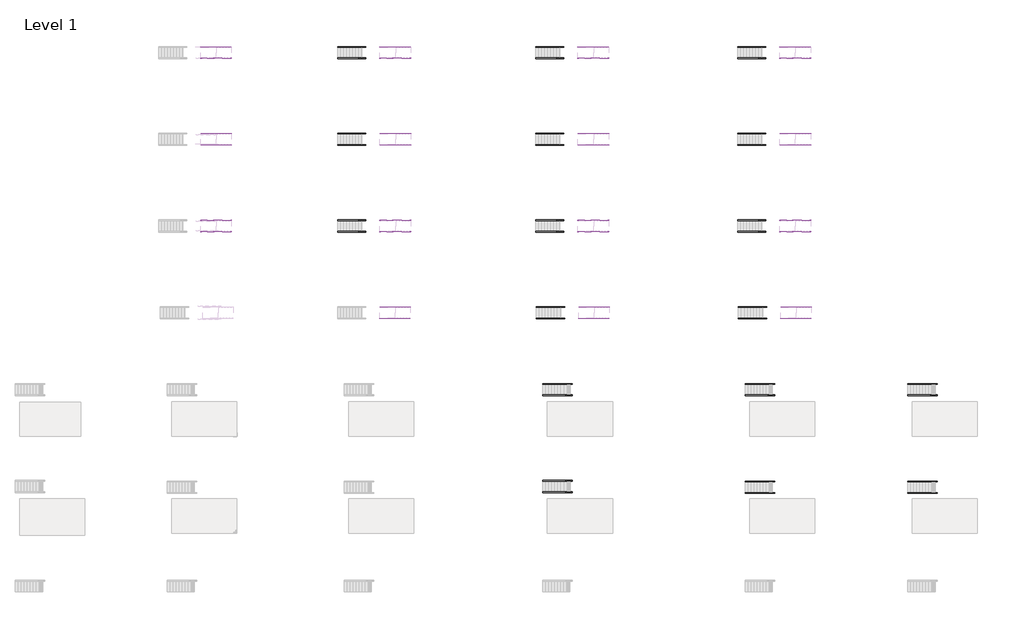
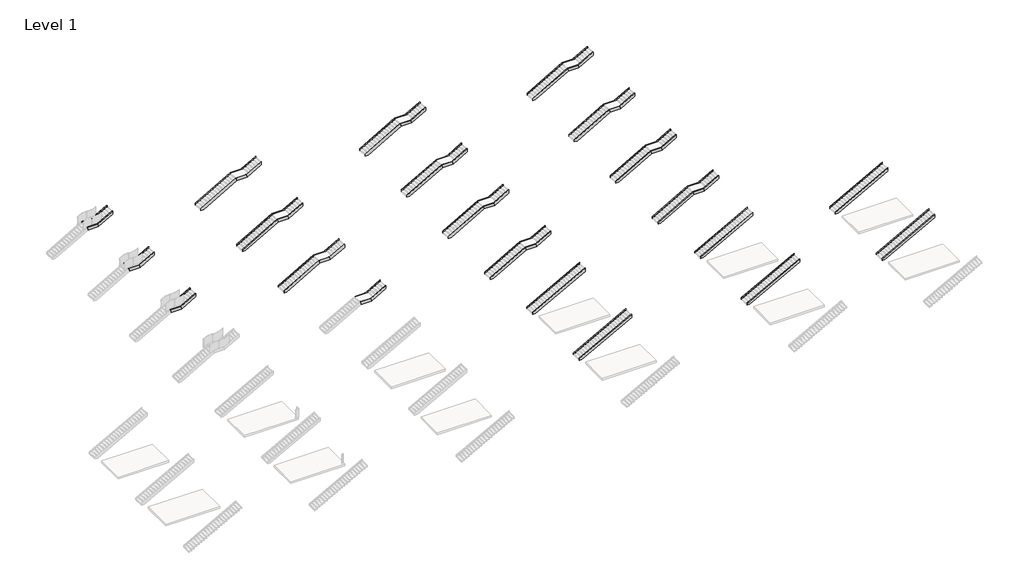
# One storey, part 8 of 8: 94 members.
"""IFC4 building model written with IfcOpenShell, lengths in millimetres."""

from ifc_helpers import new_model, si_unit, frame, origin, place, context, project, spatial, polyline, outline, extrude, element, save

model = new_model("IFC4")

# Units and contexts
model_context = context("Model", 3, world=origin())
ifc_project = project(units=[si_unit("LENGTHUNIT", "METRE", prefix="MILLI")], contexts=[model_context])

# Site, building, storey
site = spatial("IfcSite", under=ifc_project)
building = spatial("IfcBuilding", under=site)
storey = spatial("IfcBuildingStorey", under=building, Name="Level 1", Elevation=0.0)

# Members
placement = place(None, origin())
element("IfcMember", 1, ObjectType="Stringer - 2\" Width", at=placement, inside=storey, context=model_context, shape_type="SweptSolid", body=[
    extrude(outline(polyline([(2208.8928571, 2160.6034925), (1916.7928571, 2238.1748646), (2746.037898, 3689.3536861), (3048.0, 3689.3536861), (3048.0, 3629.0409925), (2208.8928571, 2160.6034925)])), frame((0.0, 44245.3361774, 0.0), z_axis=(0.0, 1.0, 0.0), x_axis=(0.0, 0.0, 1.0)), (0.0, 0.0, 1.0), 50.8),
])
element("IfcMember", 2, ObjectType="Stringer - 2\" Width", at=placement, inside=storey, context=model_context, shape_type="SweptSolid", body=[
    extrude(outline(polyline([(2208.8928571, 2160.6034925), (1916.7928571, 2238.1748646), (2746.037898, 3689.3536861), (3048.0, 3689.3536861), (3048.0, 3629.0409925), (2208.8928571, 2160.6034925)])), frame((0.0, 43280.1361774, 0.0), z_axis=(0.0, 1.0, 0.0), x_axis=(0.0, 0.0, 1.0)), (0.0, 0.0, 1.0), 50.8),
])
element("IfcMember", 3, ObjectType="Stringer - 2\" Width", at=placement, inside=storey, context=model_context, shape_type="SweptSolid", body=[
    extrude(outline(polyline([(1916.7928571, 2238.1748646), (2208.8928571, 2160.6034925), (2208.8928571, 1093.8034925), (1916.7928571, 1171.3748646), (1916.7928571, 2238.1748646)])), frame((0.0, 44245.3361774, 0.0), z_axis=(0.0, 1.0, 0.0), x_axis=(0.0, 0.0, 1.0)), (0.0, 0.0, 1.0), 50.8),
])
element("IfcMember", 4, ObjectType="Stringer - 2\" Width", at=placement, inside=storey, context=model_context, shape_type="SweptSolid", body=[
    extrude(outline(polyline([(2208.8928571, 1093.8034925), (1916.7928571, 1171.3748646), (1916.7928571, 2238.1748646), (2208.8928571, 2160.6034925), (2208.8928571, 1093.8034925)])), frame((0.0, 43280.1361774, 0.0), z_axis=(0.0, 1.0, 0.0), x_axis=(0.0, 0.0, 1.0)), (0.0, 0.0, 1.0), 50.8),
])
element("IfcMember", 5, ObjectType="Stringer - 2\" Width", at=placement, inside=storey, context=model_context, shape_type="SweptSolid", body=[
    extrude(outline(polyline([(2208.8928571, 2160.6034925), (1916.7928571, 2238.1748646), (2746.037898, 3689.3536861), (3048.0, 3689.3536861), (3048.0, 3629.0409925), (2208.8928571, 2160.6034925)])), frame((0.0, 36930.1361774, 0.0), z_axis=(0.0, 1.0, 0.0), x_axis=(0.0, 0.0, 1.0)), (0.0, 0.0, 1.0), 50.8),
])
element("IfcMember", 6, ObjectType="Stringer - 2\" Width", at=placement, inside=storey, context=model_context, shape_type="SweptSolid", body=[
    extrude(outline(polyline([(2208.8928571, 2160.6034925), (1916.7928571, 2238.1748646), (2746.037898, 3689.3536861), (3048.0, 3689.3536861), (3048.0, 3629.0409925), (2208.8928571, 2160.6034925)])), frame((0.0, 35964.9361774, 0.0), z_axis=(0.0, 1.0, 0.0), x_axis=(0.0, 0.0, 1.0)), (0.0, 0.0, 1.0), 50.8),
])
element("IfcMember", 7, ObjectType="Stringer - 2\" Width", at=placement, inside=storey, context=model_context, shape_type="SweptSolid", body=[
    extrude(outline(polyline([(1916.7928571, 2238.1748646), (2208.8928571, 2160.6034925), (2208.8928571, 1093.8034925), (1916.7928571, 1171.3748646), (1916.7928571, 2238.1748646)])), frame((0.0, 36930.1361774, 0.0), z_axis=(0.0, 1.0, 0.0), x_axis=(0.0, 0.0, 1.0)), (0.0, 0.0, 1.0), 50.8),
])
element("IfcMember", 8, ObjectType="Stringer - 2\" Width", at=placement, inside=storey, context=model_context, shape_type="SweptSolid", body=[
    extrude(outline(polyline([(2208.8928571, 1093.8034925), (1916.7928571, 1171.3748646), (1916.7928571, 2238.1748646), (2208.8928571, 2160.6034925), (2208.8928571, 1093.8034925)])), frame((0.0, 35964.9361774, 0.0), z_axis=(0.0, 1.0, 0.0), x_axis=(0.0, 0.0, 1.0)), (0.0, 0.0, 1.0), 50.8),
])
element("IfcMember", 9, ObjectType="Stringer - 2\" Width", at=placement, inside=storey, context=model_context, shape_type="SweptSolid", body=[
    extrude(outline(polyline([(2208.8928571, 2160.6034925), (1916.7928571, 2238.1748646), (2746.037898, 3689.3536861), (3048.0, 3689.3536861), (3048.0, 3629.0409925), (2208.8928571, 2160.6034925)])), frame((0.0, 29614.9361774, 0.0), z_axis=(0.0, 1.0, 0.0), x_axis=(0.0, 0.0, 1.0)), (0.0, 0.0, 1.0), 50.8),
])
element("IfcMember", 10, ObjectType="Stringer - 2\" Width", at=placement, inside=storey, context=model_context, shape_type="SweptSolid", body=[
    extrude(outline(polyline([(2208.8928571, 2160.6034925), (1916.7928571, 2238.1748646), (2746.037898, 3689.3536861), (3048.0, 3689.3536861), (3048.0, 3629.0409925), (2208.8928571, 2160.6034925)])), frame((0.0, 28649.7361774, 0.0), z_axis=(0.0, 1.0, 0.0), x_axis=(0.0, 0.0, 1.0)), (0.0, 0.0, 1.0), 50.8),
])
element("IfcMember", 11, ObjectType="Stringer - 2\" Width", at=placement, inside=storey, context=model_context, shape_type="SweptSolid", body=[
    extrude(outline(polyline([(1916.7928571, 2238.1748646), (2208.8928571, 2160.6034925), (2208.8928571, 1093.8034925), (1916.7928571, 1171.3748646), (1916.7928571, 2238.1748646)])), frame((0.0, 29614.9361774, 0.0), z_axis=(0.0, 1.0, 0.0), x_axis=(0.0, 0.0, 1.0)), (0.0, 0.0, 1.0), 50.8),
])
element("IfcMember", 12, ObjectType="Stringer - 2\" Width", at=placement, inside=storey, context=model_context, shape_type="SweptSolid", body=[
    extrude(outline(polyline([(2208.8928571, 1093.8034925), (1916.7928571, 1171.3748646), (1916.7928571, 2238.1748646), (2208.8928571, 2160.6034925), (2208.8928571, 1093.8034925)])), frame((0.0, 28649.7361774, 0.0), z_axis=(0.0, 1.0, 0.0), x_axis=(0.0, 0.0, 1.0)), (0.0, 0.0, 1.0), 50.8),
])
element("IfcMember", 13, ObjectType="Stringer - 2\" Width", at=placement, inside=storey, context=model_context, shape_type="SweptSolid", body=[
    extrude(outline(polyline([(2208.8928571, 17260.3658084), (1916.7928571, 17337.9371805), (2746.037898, 18789.1160021), (3048.0, 18789.1160021), (3048.0, 18728.8033084), (2208.8928571, 17260.3658084)])), frame((0.0, 22299.7361774, 0.0), z_axis=(0.0, 1.0, 0.0), x_axis=(0.0, 0.0, 1.0)), (0.0, 0.0, 1.0), 50.8),
])
element("IfcMember", 14, ObjectType="Stringer - 2\" Width", at=placement, inside=storey, context=model_context, shape_type="SweptSolid", body=[
    extrude(outline(polyline([(2208.8928571, 17260.3658084), (1916.7928571, 17337.9371805), (2746.037898, 18789.1160021), (3048.0, 18789.1160021), (3048.0, 18728.8033084), (2208.8928571, 17260.3658084)])), frame((0.0, 21334.5361774, 0.0), z_axis=(0.0, 1.0, 0.0), x_axis=(0.0, 0.0, 1.0)), (0.0, 0.0, 1.0), 50.8),
])
element("IfcMember", 15, ObjectType="Stringer - 2\" Width", at=placement, inside=storey, context=model_context, shape_type="SweptSolid", body=[
    extrude(outline(polyline([(1916.7928571, 17337.9371805), (2208.8928571, 17260.3658084), (2208.8928571, 16193.5658084), (1916.7928571, 16271.1371805), (1916.7928571, 17337.9371805)])), frame((0.0, 22299.7361774, 0.0), z_axis=(0.0, 1.0, 0.0), x_axis=(0.0, 0.0, 1.0)), (0.0, 0.0, 1.0), 50.8),
])
element("IfcMember", 16, ObjectType="Stringer - 2\" Width", at=placement, inside=storey, context=model_context, shape_type="SweptSolid", body=[
    extrude(outline(polyline([(2208.8928571, 16193.5658084), (1916.7928571, 16271.1371805), (1916.7928571, 17337.9371805), (2208.8928571, 17260.3658084), (2208.8928571, 16193.5658084)])), frame((0.0, 21334.5361774, 0.0), z_axis=(0.0, 1.0, 0.0), x_axis=(0.0, 0.0, 1.0)), (0.0, 0.0, 1.0), 50.8),
])
element("IfcMember", 17, ObjectType="Stringer - 2\" Width", at=placement, inside=storey, context=model_context, shape_type="SweptSolid", body=[
    extrude(outline(polyline([(179.6072535, 12656.6035021), (0.0, 12656.6035021), (0.0, 12931.0371805), (1916.7928571, 16285.4246805), (2208.8928571, 16207.8533084), (179.6072535, 12656.6035021)])), frame((0.0, 44245.3361774, 0.0), z_axis=(0.0, 1.0, 0.0), x_axis=(0.0, 0.0, 1.0)), (0.0, 0.0, 1.0), 50.8),
])
element("IfcMember", 18, ObjectType="Stringer - 2\" Width", at=placement, inside=storey, context=model_context, shape_type="SweptSolid", body=[
    extrude(outline(polyline([(179.6072535, 12656.6035021), (0.0, 12656.6035021), (0.0, 12931.0371805), (1916.7928571, 16285.4246805), (2208.8928571, 16207.8533084), (179.6072535, 12656.6035021)])), frame((0.0, 43280.1361774, 0.0), z_axis=(0.0, 1.0, 0.0), x_axis=(0.0, 0.0, 1.0)), (0.0, 0.0, 1.0), 50.8),
])
element("IfcMember", 19, ObjectType="Stringer - 2\" Width", at=placement, inside=storey, context=model_context, shape_type="SweptSolid", body=[
    extrude(outline(polyline([(2208.8928571, 17274.6533084), (1916.7928571, 17352.2246805), (2746.037898, 18803.4035021), (3048.0, 18803.4035021), (3048.0, 18743.0908084), (2208.8928571, 17274.6533084)])), frame((0.0, 44245.3361774, 0.0), z_axis=(0.0, 1.0, 0.0), x_axis=(0.0, 0.0, 1.0)), (0.0, 0.0, 1.0), 50.8),
])
element("IfcMember", 20, ObjectType="Stringer - 2\" Width", at=placement, inside=storey, context=model_context, shape_type="SweptSolid", body=[
    extrude(outline(polyline([(2208.8928571, 17274.6533084), (1916.7928571, 17352.2246805), (2746.037898, 18803.4035021), (3048.0, 18803.4035021), (3048.0, 18743.0908084), (2208.8928571, 17274.6533084)])), frame((0.0, 43280.1361774, 0.0), z_axis=(0.0, 1.0, 0.0), x_axis=(0.0, 0.0, 1.0)), (0.0, 0.0, 1.0), 50.8),
])
element("IfcMember", 21, ObjectType="Stringer - 2\" Width", at=placement, inside=storey, context=model_context, shape_type="SweptSolid", body=[
    extrude(outline(polyline([(1916.7928571, 17352.2246805), (2208.8928571, 17274.6533084), (2208.8928571, 16207.8533084), (1916.7928571, 16285.4246805), (1916.7928571, 17352.2246805)])), frame((0.0, 44245.3361774, 0.0), z_axis=(0.0, 1.0, 0.0), x_axis=(0.0, 0.0, 1.0)), (0.0, 0.0, 1.0), 50.8),
])
element("IfcMember", 22, ObjectType="Stringer - 2\" Width", at=placement, inside=storey, context=model_context, shape_type="SweptSolid", body=[
    extrude(outline(polyline([(2208.8928571, 16207.8533084), (1916.7928571, 16285.4246805), (1916.7928571, 17352.2246805), (2208.8928571, 17274.6533084), (2208.8928571, 16207.8533084)])), frame((0.0, 43280.1361774, 0.0), z_axis=(0.0, 1.0, 0.0), x_axis=(0.0, 0.0, 1.0)), (0.0, 0.0, 1.0), 50.8),
])
element("IfcMember", 23, ObjectType="Stringer - 2\" Width", at=placement, inside=storey, context=model_context, shape_type="SweptSolid", body=[
    extrude(outline(polyline([(179.6072535, 12656.6035021), (0.0, 12656.6035021), (0.0, 12931.0371805), (1916.7928571, 16285.4246805), (2208.8928571, 16207.8533084), (179.6072535, 12656.6035021)])), frame((0.0, 36930.1361774, 0.0), z_axis=(0.0, 1.0, 0.0), x_axis=(0.0, 0.0, 1.0)), (0.0, 0.0, 1.0), 50.8),
])
element("IfcMember", 24, ObjectType="Stringer - 2\" Width", at=placement, inside=storey, context=model_context, shape_type="SweptSolid", body=[
    extrude(outline(polyline([(179.6072535, 12656.6035021), (0.0, 12656.6035021), (0.0, 12931.0371805), (1916.7928571, 16285.4246805), (2208.8928571, 16207.8533084), (179.6072535, 12656.6035021)])), frame((0.0, 35964.9361774, 0.0), z_axis=(0.0, 1.0, 0.0), x_axis=(0.0, 0.0, 1.0)), (0.0, 0.0, 1.0), 50.8),
])
element("IfcMember", 25, ObjectType="Stringer - 2\" Width", at=placement, inside=storey, context=model_context, shape_type="SweptSolid", body=[
    extrude(outline(polyline([(2208.8928571, 17274.6533084), (1916.7928571, 17352.2246805), (2746.037898, 18803.4035021), (3048.0, 18803.4035021), (3048.0, 18743.0908084), (2208.8928571, 17274.6533084)])), frame((0.0, 36930.1361774, 0.0), z_axis=(0.0, 1.0, 0.0), x_axis=(0.0, 0.0, 1.0)), (0.0, 0.0, 1.0), 50.8),
])
element("IfcMember", 26, ObjectType="Stringer - 2\" Width", at=placement, inside=storey, context=model_context, shape_type="SweptSolid", body=[
    extrude(outline(polyline([(2208.8928571, 17274.6533084), (1916.7928571, 17352.2246805), (2746.037898, 18803.4035021), (3048.0, 18803.4035021), (3048.0, 18743.0908084), (2208.8928571, 17274.6533084)])), frame((0.0, 35964.9361774, 0.0), z_axis=(0.0, 1.0, 0.0), x_axis=(0.0, 0.0, 1.0)), (0.0, 0.0, 1.0), 50.8),
])
element("IfcMember", 27, ObjectType="Stringer - 2\" Width", at=placement, inside=storey, context=model_context, shape_type="SweptSolid", body=[
    extrude(outline(polyline([(1916.7928571, 17352.2246805), (2208.8928571, 17274.6533084), (2208.8928571, 16207.8533084), (1916.7928571, 16285.4246805), (1916.7928571, 17352.2246805)])), frame((0.0, 36930.1361774, 0.0), z_axis=(0.0, 1.0, 0.0), x_axis=(0.0, 0.0, 1.0)), (0.0, 0.0, 1.0), 50.8),
])
element("IfcMember", 28, ObjectType="Stringer - 2\" Width", at=placement, inside=storey, context=model_context, shape_type="SweptSolid", body=[
    extrude(outline(polyline([(2208.8928571, 16207.8533084), (1916.7928571, 16285.4246805), (1916.7928571, 17352.2246805), (2208.8928571, 17274.6533084), (2208.8928571, 16207.8533084)])), frame((0.0, 35964.9361774, 0.0), z_axis=(0.0, 1.0, 0.0), x_axis=(0.0, 0.0, 1.0)), (0.0, 0.0, 1.0), 50.8),
])
element("IfcMember", 29, ObjectType="Stringer - 2\" Width", at=placement, inside=storey, context=model_context, shape_type="SweptSolid", body=[
    extrude(outline(polyline([(179.6072535, 12656.6035021), (0.0, 12656.6035021), (0.0, 12931.0371805), (1916.7928571, 16285.4246805), (2208.8928571, 16207.8533084), (179.6072535, 12656.6035021)])), frame((0.0, 29614.9361774, 0.0), z_axis=(0.0, 1.0, 0.0), x_axis=(0.0, 0.0, 1.0)), (0.0, 0.0, 1.0), 50.8),
])
element("IfcMember", 30, ObjectType="Stringer - 2\" Width", at=placement, inside=storey, context=model_context, shape_type="SweptSolid", body=[
    extrude(outline(polyline([(179.6072535, 12656.6035021), (0.0, 12656.6035021), (0.0, 12931.0371805), (1916.7928571, 16285.4246805), (2208.8928571, 16207.8533084), (179.6072535, 12656.6035021)])), frame((0.0, 28649.7361774, 0.0), z_axis=(0.0, 1.0, 0.0), x_axis=(0.0, 0.0, 1.0)), (0.0, 0.0, 1.0), 50.8),
])
element("IfcMember", 31, ObjectType="Stringer - 2\" Width", at=placement, inside=storey, context=model_context, shape_type="SweptSolid", body=[
    extrude(outline(polyline([(2208.8928571, 17274.6533084), (1916.7928571, 17352.2246805), (2746.037898, 18803.4035021), (3048.0, 18803.4035021), (3048.0, 18743.0908084), (2208.8928571, 17274.6533084)])), frame((0.0, 29614.9361774, 0.0), z_axis=(0.0, 1.0, 0.0), x_axis=(0.0, 0.0, 1.0)), (0.0, 0.0, 1.0), 50.8),
])
element("IfcMember", 32, ObjectType="Stringer - 2\" Width", at=placement, inside=storey, context=model_context, shape_type="SweptSolid", body=[
    extrude(outline(polyline([(2208.8928571, 17274.6533084), (1916.7928571, 17352.2246805), (2746.037898, 18803.4035021), (3048.0, 18803.4035021), (3048.0, 18743.0908084), (2208.8928571, 17274.6533084)])), frame((0.0, 28649.7361774, 0.0), z_axis=(0.0, 1.0, 0.0), x_axis=(0.0, 0.0, 1.0)), (0.0, 0.0, 1.0), 50.8),
])
element("IfcMember", 33, ObjectType="Stringer - 2\" Width", at=placement, inside=storey, context=model_context, shape_type="SweptSolid", body=[
    extrude(outline(polyline([(1916.7928571, 17352.2246805), (2208.8928571, 17274.6533084), (2208.8928571, 16207.8533084), (1916.7928571, 16285.4246805), (1916.7928571, 17352.2246805)])), frame((0.0, 29614.9361774, 0.0), z_axis=(0.0, 1.0, 0.0), x_axis=(0.0, 0.0, 1.0)), (0.0, 0.0, 1.0), 50.8),
])
element("IfcMember", 34, ObjectType="Stringer - 2\" Width", at=placement, inside=storey, context=model_context, shape_type="SweptSolid", body=[
    extrude(outline(polyline([(2208.8928571, 16207.8533084), (1916.7928571, 16285.4246805), (1916.7928571, 17352.2246805), (2208.8928571, 17274.6533084), (2208.8928571, 16207.8533084)])), frame((0.0, 28649.7361774, 0.0), z_axis=(0.0, 1.0, 0.0), x_axis=(0.0, 0.0, 1.0)), (0.0, 0.0, 1.0), 50.8),
])
element("IfcMember", 35, ObjectType="Stringer - 2\" Width", at=placement, inside=storey, context=model_context, shape_type="SweptSolid", body=[
    extrude(outline(polyline([(179.6072535, 29418.4048668), (0.0, 29418.4048668), (0.0, 29692.8385453), (1916.7928571, 33047.2260453), (2208.8928571, 32969.6546732), (179.6072535, 29418.4048668)])), frame((0.0, 22299.7361774, 0.0), z_axis=(0.0, 1.0, 0.0), x_axis=(0.0, 0.0, 1.0)), (0.0, 0.0, 1.0), 50.8),
])
element("IfcMember", 36, ObjectType="Stringer - 2\" Width", at=placement, inside=storey, context=model_context, shape_type="SweptSolid", body=[
    extrude(outline(polyline([(179.6072535, 29418.4048668), (0.0, 29418.4048668), (0.0, 29692.8385453), (1916.7928571, 33047.2260453), (2208.8928571, 32969.6546732), (179.6072535, 29418.4048668)])), frame((0.0, 21334.5361774, 0.0), z_axis=(0.0, 1.0, 0.0), x_axis=(0.0, 0.0, 1.0)), (0.0, 0.0, 1.0), 50.8),
])
element("IfcMember", 37, ObjectType="Stringer - 2\" Width", at=placement, inside=storey, context=model_context, shape_type="SweptSolid", body=[
    extrude(outline(polyline([(2208.8928571, 34036.4546732), (1916.7928571, 34114.0260453), (2746.037898, 35565.2048668), (3048.0, 35565.2048668), (3048.0, 35504.8921732), (2208.8928571, 34036.4546732)])), frame((0.0, 22299.7361774, 0.0), z_axis=(0.0, 1.0, 0.0), x_axis=(0.0, 0.0, 1.0)), (0.0, 0.0, 1.0), 50.8),
])
element("IfcMember", 38, ObjectType="Stringer - 2\" Width", at=placement, inside=storey, context=model_context, shape_type="SweptSolid", body=[
    extrude(outline(polyline([(2208.8928571, 34036.4546732), (1916.7928571, 34114.0260453), (2746.037898, 35565.2048668), (3048.0, 35565.2048668), (3048.0, 35504.8921732), (2208.8928571, 34036.4546732)])), frame((0.0, 21334.5361774, 0.0), z_axis=(0.0, 1.0, 0.0), x_axis=(0.0, 0.0, 1.0)), (0.0, 0.0, 1.0), 50.8),
])
element("IfcMember", 39, ObjectType="Stringer - 2\" Width", at=placement, inside=storey, context=model_context, shape_type="SweptSolid", body=[
    extrude(outline(polyline([(1916.7928571, 34114.0260453), (2208.8928571, 34036.4546732), (2208.8928571, 32969.6546732), (1916.7928571, 33047.2260453), (1916.7928571, 34114.0260453)])), frame((0.0, 22299.7361774, 0.0), z_axis=(0.0, 1.0, 0.0), x_axis=(0.0, 0.0, 1.0)), (0.0, 0.0, 1.0), 50.8),
])
element("IfcMember", 40, ObjectType="Stringer - 2\" Width", at=placement, inside=storey, context=model_context, shape_type="SweptSolid", body=[
    extrude(outline(polyline([(2208.8928571, 32969.6546732), (1916.7928571, 33047.2260453), (1916.7928571, 34114.0260453), (2208.8928571, 34036.4546732), (2208.8928571, 32969.6546732)])), frame((0.0, 21334.5361774, 0.0), z_axis=(0.0, 1.0, 0.0), x_axis=(0.0, 0.0, 1.0)), (0.0, 0.0, 1.0), 50.8),
])
element("IfcMember", 41, ObjectType="Stringer - 2\" Width", at=placement, inside=storey, context=model_context, shape_type="SweptSolid", body=[
    extrude(outline(polyline([(179.6072535, 29367.1991768), (0.0, 29367.1991768), (0.0, 29641.6328553), (1916.7928571, 32996.0203553), (2208.8928571, 32918.4489832), (179.6072535, 29367.1991768)])), frame((0.0, 44245.3361774, 0.0), z_axis=(0.0, 1.0, 0.0), x_axis=(0.0, 0.0, 1.0)), (0.0, 0.0, 1.0), 50.8),
])
element("IfcMember", 42, ObjectType="Stringer - 2\" Width", at=placement, inside=storey, context=model_context, shape_type="SweptSolid", body=[
    extrude(outline(polyline([(179.6072535, 29367.1991768), (0.0, 29367.1991768), (0.0, 29641.6328553), (1916.7928571, 32996.0203553), (2208.8928571, 32918.4489832), (179.6072535, 29367.1991768)])), frame((0.0, 43280.1361774, 0.0), z_axis=(0.0, 1.0, 0.0), x_axis=(0.0, 0.0, 1.0)), (0.0, 0.0, 1.0), 50.8),
])
element("IfcMember", 43, ObjectType="Stringer - 2\" Width", at=placement, inside=storey, context=model_context, shape_type="SweptSolid", body=[
    extrude(outline(polyline([(2208.8928571, 33985.2489832), (1916.7928571, 34062.8203553), (2746.037898, 35513.9991768), (3048.0, 35513.9991768), (3048.0, 35453.6864832), (2208.8928571, 33985.2489832)])), frame((0.0, 44245.3361774, 0.0), z_axis=(0.0, 1.0, 0.0), x_axis=(0.0, 0.0, 1.0)), (0.0, 0.0, 1.0), 50.8),
])
element("IfcMember", 44, ObjectType="Stringer - 2\" Width", at=placement, inside=storey, context=model_context, shape_type="SweptSolid", body=[
    extrude(outline(polyline([(2208.8928571, 33985.2489832), (1916.7928571, 34062.8203553), (2746.037898, 35513.9991768), (3048.0, 35513.9991768), (3048.0, 35453.6864832), (2208.8928571, 33985.2489832)])), frame((0.0, 43280.1361774, 0.0), z_axis=(0.0, 1.0, 0.0), x_axis=(0.0, 0.0, 1.0)), (0.0, 0.0, 1.0), 50.8),
])
element("IfcMember", 45, ObjectType="Stringer - 2\" Width", at=placement, inside=storey, context=model_context, shape_type="SweptSolid", body=[
    extrude(outline(polyline([(1916.7928571, 34062.8203553), (2208.8928571, 33985.2489832), (2208.8928571, 32918.4489832), (1916.7928571, 32996.0203553), (1916.7928571, 34062.8203553)])), frame((0.0, 44245.3361774, 0.0), z_axis=(0.0, 1.0, 0.0), x_axis=(0.0, 0.0, 1.0)), (0.0, 0.0, 1.0), 50.8),
])
element("IfcMember", 46, ObjectType="Stringer - 2\" Width", at=placement, inside=storey, context=model_context, shape_type="SweptSolid", body=[
    extrude(outline(polyline([(2208.8928571, 32918.4489832), (1916.7928571, 32996.0203553), (1916.7928571, 34062.8203553), (2208.8928571, 33985.2489832), (2208.8928571, 32918.4489832)])), frame((0.0, 43280.1361774, 0.0), z_axis=(0.0, 1.0, 0.0), x_axis=(0.0, 0.0, 1.0)), (0.0, 0.0, 1.0), 50.8),
])
element("IfcMember", 47, ObjectType="Stringer - 2\" Width", at=placement, inside=storey, context=model_context, shape_type="SweptSolid", body=[
    extrude(outline(polyline([(179.6072535, 29367.1991768), (0.0, 29367.1991768), (0.0, 29641.6328553), (1916.7928571, 32996.0203553), (2208.8928571, 32918.4489832), (179.6072535, 29367.1991768)])), frame((0.0, 36930.1361774, 0.0), z_axis=(0.0, 1.0, 0.0), x_axis=(0.0, 0.0, 1.0)), (0.0, 0.0, 1.0), 50.8),
])
element("IfcMember", 48, ObjectType="Stringer - 2\" Width", at=placement, inside=storey, context=model_context, shape_type="SweptSolid", body=[
    extrude(outline(polyline([(179.6072535, 29367.1991768), (0.0, 29367.1991768), (0.0, 29641.6328553), (1916.7928571, 32996.0203553), (2208.8928571, 32918.4489832), (179.6072535, 29367.1991768)])), frame((0.0, 35964.9361774, 0.0), z_axis=(0.0, 1.0, 0.0), x_axis=(0.0, 0.0, 1.0)), (0.0, 0.0, 1.0), 50.8),
])
element("IfcMember", 49, ObjectType="Stringer - 2\" Width", at=placement, inside=storey, context=model_context, shape_type="SweptSolid", body=[
    extrude(outline(polyline([(2208.8928571, 33985.2489832), (1916.7928571, 34062.8203553), (2746.037898, 35513.9991768), (3048.0, 35513.9991768), (3048.0, 35453.6864832), (2208.8928571, 33985.2489832)])), frame((0.0, 36930.1361774, 0.0), z_axis=(0.0, 1.0, 0.0), x_axis=(0.0, 0.0, 1.0)), (0.0, 0.0, 1.0), 50.8),
])
element("IfcMember", 50, ObjectType="Stringer - 2\" Width", at=placement, inside=storey, context=model_context, shape_type="SweptSolid", body=[
    extrude(outline(polyline([(2208.8928571, 33985.2489832), (1916.7928571, 34062.8203553), (2746.037898, 35513.9991768), (3048.0, 35513.9991768), (3048.0, 35453.6864832), (2208.8928571, 33985.2489832)])), frame((0.0, 35964.9361774, 0.0), z_axis=(0.0, 1.0, 0.0), x_axis=(0.0, 0.0, 1.0)), (0.0, 0.0, 1.0), 50.8),
])
element("IfcMember", 51, ObjectType="Stringer - 2\" Width", at=placement, inside=storey, context=model_context, shape_type="SweptSolid", body=[
    extrude(outline(polyline([(1916.7928571, 34062.8203553), (2208.8928571, 33985.2489832), (2208.8928571, 32918.4489832), (1916.7928571, 32996.0203553), (1916.7928571, 34062.8203553)])), frame((0.0, 36930.1361774, 0.0), z_axis=(0.0, 1.0, 0.0), x_axis=(0.0, 0.0, 1.0)), (0.0, 0.0, 1.0), 50.8),
])
element("IfcMember", 52, ObjectType="Stringer - 2\" Width", at=placement, inside=storey, context=model_context, shape_type="SweptSolid", body=[
    extrude(outline(polyline([(2208.8928571, 32918.4489832), (1916.7928571, 32996.0203553), (1916.7928571, 34062.8203553), (2208.8928571, 33985.2489832), (2208.8928571, 32918.4489832)])), frame((0.0, 35964.9361774, 0.0), z_axis=(0.0, 1.0, 0.0), x_axis=(0.0, 0.0, 1.0)), (0.0, 0.0, 1.0), 50.8),
])
element("IfcMember", 53, ObjectType="Stringer - 2\" Width", at=placement, inside=storey, context=model_context, shape_type="SweptSolid", body=[
    extrude(outline(polyline([(179.6072535, 29367.1991768), (0.0, 29367.1991768), (0.0, 29641.6328553), (1916.7928571, 32996.0203553), (2208.8928571, 32918.4489832), (179.6072535, 29367.1991768)])), frame((0.0, 29614.9361774, 0.0), z_axis=(0.0, 1.0, 0.0), x_axis=(0.0, 0.0, 1.0)), (0.0, 0.0, 1.0), 50.8),
])
element("IfcMember", 54, ObjectType="Stringer - 2\" Width", at=placement, inside=storey, context=model_context, shape_type="SweptSolid", body=[
    extrude(outline(polyline([(179.6072535, 29367.1991768), (0.0, 29367.1991768), (0.0, 29641.6328553), (1916.7928571, 32996.0203553), (2208.8928571, 32918.4489832), (179.6072535, 29367.1991768)])), frame((0.0, 28649.7361774, 0.0), z_axis=(0.0, 1.0, 0.0), x_axis=(0.0, 0.0, 1.0)), (0.0, 0.0, 1.0), 50.8),
])
element("IfcMember", 55, ObjectType="Stringer - 2\" Width", at=placement, inside=storey, context=model_context, shape_type="SweptSolid", body=[
    extrude(outline(polyline([(2208.8928571, 33985.2489832), (1916.7928571, 34062.8203553), (2746.037898, 35513.9991768), (3048.0, 35513.9991768), (3048.0, 35453.6864832), (2208.8928571, 33985.2489832)])), frame((0.0, 29614.9361774, 0.0), z_axis=(0.0, 1.0, 0.0), x_axis=(0.0, 0.0, 1.0)), (0.0, 0.0, 1.0), 50.8),
])
element("IfcMember", 56, ObjectType="Stringer - 2\" Width", at=placement, inside=storey, context=model_context, shape_type="SweptSolid", body=[
    extrude(outline(polyline([(2208.8928571, 33985.2489832), (1916.7928571, 34062.8203553), (2746.037898, 35513.9991768), (3048.0, 35513.9991768), (3048.0, 35453.6864832), (2208.8928571, 33985.2489832)])), frame((0.0, 28649.7361774, 0.0), z_axis=(0.0, 1.0, 0.0), x_axis=(0.0, 0.0, 1.0)), (0.0, 0.0, 1.0), 50.8),
])
element("IfcMember", 57, ObjectType="Stringer - 2\" Width", at=placement, inside=storey, context=model_context, shape_type="SweptSolid", body=[
    extrude(outline(polyline([(1916.7928571, 34062.8203553), (2208.8928571, 33985.2489832), (2208.8928571, 32918.4489832), (1916.7928571, 32996.0203553), (1916.7928571, 34062.8203553)])), frame((0.0, 29614.9361774, 0.0), z_axis=(0.0, 1.0, 0.0), x_axis=(0.0, 0.0, 1.0)), (0.0, 0.0, 1.0), 50.8),
])
element("IfcMember", 58, ObjectType="Stringer - 2\" Width", at=placement, inside=storey, context=model_context, shape_type="SweptSolid", body=[
    extrude(outline(polyline([(2208.8928571, 32918.4489832), (1916.7928571, 32996.0203553), (1916.7928571, 34062.8203553), (2208.8928571, 33985.2489832), (2208.8928571, 32918.4489832)])), frame((0.0, 28649.7361774, 0.0), z_axis=(0.0, 1.0, 0.0), x_axis=(0.0, 0.0, 1.0)), (0.0, 0.0, 1.0), 50.8),
])
element("IfcMember", 59, ObjectType="Stringer - 2\" Width", at=placement, inside=storey, context=model_context, shape_type="SweptSolid", body=[
    extrude(outline(polyline([(179.6072535, 46462.9866768), (0.0, 46462.9866768), (0.0, 46737.4203553), (1916.7928571, 50091.8078553), (2208.8928571, 50014.2364832), (179.6072535, 46462.9866768)])), frame((0.0, 22299.7361774, 0.0), z_axis=(0.0, 1.0, 0.0), x_axis=(0.0, 0.0, 1.0)), (0.0, 0.0, 1.0), 50.8),
])
element("IfcMember", 60, ObjectType="Stringer - 2\" Width", at=placement, inside=storey, context=model_context, shape_type="SweptSolid", body=[
    extrude(outline(polyline([(179.6072535, 46462.9866768), (0.0, 46462.9866768), (0.0, 46737.4203553), (1916.7928571, 50091.8078553), (2208.8928571, 50014.2364832), (179.6072535, 46462.9866768)])), frame((0.0, 21334.5361774, 0.0), z_axis=(0.0, 1.0, 0.0), x_axis=(0.0, 0.0, 1.0)), (0.0, 0.0, 1.0), 50.8),
])
element("IfcMember", 61, ObjectType="Stringer - 2\" Width", at=placement, inside=storey, context=model_context, shape_type="SweptSolid", body=[
    extrude(outline(polyline([(2208.8928571, 51081.0364832), (1916.7928571, 51158.6078553), (2746.037898, 52609.7866768), (3048.0, 52609.7866768), (3048.0, 52549.4739832), (2208.8928571, 51081.0364832)])), frame((0.0, 22299.7361774, 0.0), z_axis=(0.0, 1.0, 0.0), x_axis=(0.0, 0.0, 1.0)), (0.0, 0.0, 1.0), 50.8),
])
element("IfcMember", 62, ObjectType="Stringer - 2\" Width", at=placement, inside=storey, context=model_context, shape_type="SweptSolid", body=[
    extrude(outline(polyline([(2208.8928571, 51081.0364832), (1916.7928571, 51158.6078553), (2746.037898, 52609.7866768), (3048.0, 52609.7866768), (3048.0, 52549.4739832), (2208.8928571, 51081.0364832)])), frame((0.0, 21334.5361774, 0.0), z_axis=(0.0, 1.0, 0.0), x_axis=(0.0, 0.0, 1.0)), (0.0, 0.0, 1.0), 50.8),
])
element("IfcMember", 63, ObjectType="Stringer - 2\" Width", at=placement, inside=storey, context=model_context, shape_type="SweptSolid", body=[
    extrude(outline(polyline([(1916.7928571, 51158.6078553), (2208.8928571, 51081.0364832), (2208.8928571, 50014.2364832), (1916.7928571, 50091.8078553), (1916.7928571, 51158.6078553)])), frame((0.0, 22299.7361774, 0.0), z_axis=(0.0, 1.0, 0.0), x_axis=(0.0, 0.0, 1.0)), (0.0, 0.0, 1.0), 50.8),
])
element("IfcMember", 64, ObjectType="Stringer - 2\" Width", at=placement, inside=storey, context=model_context, shape_type="SweptSolid", body=[
    extrude(outline(polyline([(2208.8928571, 50014.2364832), (1916.7928571, 50091.8078553), (1916.7928571, 51158.6078553), (2208.8928571, 51081.0364832), (2208.8928571, 50014.2364832)])), frame((0.0, 21334.5361774, 0.0), z_axis=(0.0, 1.0, 0.0), x_axis=(0.0, 0.0, 1.0)), (0.0, 0.0, 1.0), 50.8),
])
element("IfcMember", 65, ObjectType="Stringer - 2\" Width", at=placement, inside=storey, context=model_context, shape_type="SweptSolid", body=[
    extrude(outline(polyline([(179.6072535, 46394.7241768), (0.0, 46394.7241768), (0.0, 46669.1578553), (1916.7928571, 50023.5453553), (2208.8928571, 49945.9739832), (179.6072535, 46394.7241768)])), frame((0.0, 29614.9361774, 0.0), z_axis=(0.0, 1.0, 0.0), x_axis=(0.0, 0.0, 1.0)), (0.0, 0.0, 1.0), 50.8),
])
element("IfcMember", 66, ObjectType="Stringer - 2\" Width", at=placement, inside=storey, context=model_context, shape_type="SweptSolid", body=[
    extrude(outline(polyline([(179.6072535, 46394.7241768), (0.0, 46394.7241768), (0.0, 46669.1578553), (1916.7928571, 50023.5453553), (2208.8928571, 49945.9739832), (179.6072535, 46394.7241768)])), frame((0.0, 28649.7361774, 0.0), z_axis=(0.0, 1.0, 0.0), x_axis=(0.0, 0.0, 1.0)), (0.0, 0.0, 1.0), 50.8),
])
element("IfcMember", 67, ObjectType="Stringer - 2\" Width", at=placement, inside=storey, context=model_context, shape_type="SweptSolid", body=[
    extrude(outline(polyline([(2208.8928571, 51012.7739832), (1916.7928571, 51090.3453553), (2746.037898, 52541.5241768), (3048.0, 52541.5241768), (3048.0, 52481.2114832), (2208.8928571, 51012.7739832)])), frame((0.0, 29614.9361774, 0.0), z_axis=(0.0, 1.0, 0.0), x_axis=(0.0, 0.0, 1.0)), (0.0, 0.0, 1.0), 50.8),
])
element("IfcMember", 68, ObjectType="Stringer - 2\" Width", at=placement, inside=storey, context=model_context, shape_type="SweptSolid", body=[
    extrude(outline(polyline([(2208.8928571, 51012.7739832), (1916.7928571, 51090.3453553), (2746.037898, 52541.5241768), (3048.0, 52541.5241768), (3048.0, 52481.2114832), (2208.8928571, 51012.7739832)])), frame((0.0, 28649.7361774, 0.0), z_axis=(0.0, 1.0, 0.0), x_axis=(0.0, 0.0, 1.0)), (0.0, 0.0, 1.0), 50.8),
])
element("IfcMember", 69, ObjectType="Stringer - 2\" Width", at=placement, inside=storey, context=model_context, shape_type="SweptSolid", body=[
    extrude(outline(polyline([(1916.7928571, 51090.3453553), (2208.8928571, 51012.7739832), (2208.8928571, 49945.9739832), (1916.7928571, 50023.5453553), (1916.7928571, 51090.3453553)])), frame((0.0, 29614.9361774, 0.0), z_axis=(0.0, 1.0, 0.0), x_axis=(0.0, 0.0, 1.0)), (0.0, 0.0, 1.0), 50.8),
])
element("IfcMember", 70, ObjectType="Stringer - 2\" Width", at=placement, inside=storey, context=model_context, shape_type="SweptSolid", body=[
    extrude(outline(polyline([(2208.8928571, 49945.9739832), (1916.7928571, 50023.5453553), (1916.7928571, 51090.3453553), (2208.8928571, 51012.7739832), (2208.8928571, 49945.9739832)])), frame((0.0, 28649.7361774, 0.0), z_axis=(0.0, 1.0, 0.0), x_axis=(0.0, 0.0, 1.0)), (0.0, 0.0, 1.0), 50.8),
])
element("IfcMember", 71, ObjectType="Stringer - 2\" Width", at=placement, inside=storey, context=model_context, shape_type="SweptSolid", body=[
    extrude(outline(polyline([(179.6072535, 46394.7241768), (0.0, 46394.7241768), (0.0, 46669.1578553), (1916.7928571, 50023.5453553), (2208.8928571, 49945.9739832), (179.6072535, 46394.7241768)])), frame((0.0, 44245.3361774, 0.0), z_axis=(0.0, 1.0, 0.0), x_axis=(0.0, 0.0, 1.0)), (0.0, 0.0, 1.0), 50.8),
])
element("IfcMember", 72, ObjectType="Stringer - 2\" Width", at=placement, inside=storey, context=model_context, shape_type="SweptSolid", body=[
    extrude(outline(polyline([(179.6072535, 46394.7241768), (0.0, 46394.7241768), (0.0, 46669.1578553), (1916.7928571, 50023.5453553), (2208.8928571, 49945.9739832), (179.6072535, 46394.7241768)])), frame((0.0, 43280.1361774, 0.0), z_axis=(0.0, 1.0, 0.0), x_axis=(0.0, 0.0, 1.0)), (0.0, 0.0, 1.0), 50.8),
])
element("IfcMember", 73, ObjectType="Stringer - 2\" Width", at=placement, inside=storey, context=model_context, shape_type="SweptSolid", body=[
    extrude(outline(polyline([(2208.8928571, 51012.7739832), (1916.7928571, 51090.3453553), (2746.037898, 52541.5241768), (3048.0, 52541.5241768), (3048.0, 52481.2114832), (2208.8928571, 51012.7739832)])), frame((0.0, 44245.3361774, 0.0), z_axis=(0.0, 1.0, 0.0), x_axis=(0.0, 0.0, 1.0)), (0.0, 0.0, 1.0), 50.8),
])
element("IfcMember", 74, ObjectType="Stringer - 2\" Width", at=placement, inside=storey, context=model_context, shape_type="SweptSolid", body=[
    extrude(outline(polyline([(2208.8928571, 51012.7739832), (1916.7928571, 51090.3453553), (2746.037898, 52541.5241768), (3048.0, 52541.5241768), (3048.0, 52481.2114832), (2208.8928571, 51012.7739832)])), frame((0.0, 43280.1361774, 0.0), z_axis=(0.0, 1.0, 0.0), x_axis=(0.0, 0.0, 1.0)), (0.0, 0.0, 1.0), 50.8),
])
element("IfcMember", 75, ObjectType="Stringer - 2\" Width", at=placement, inside=storey, context=model_context, shape_type="SweptSolid", body=[
    extrude(outline(polyline([(1916.7928571, 51090.3453553), (2208.8928571, 51012.7739832), (2208.8928571, 49945.9739832), (1916.7928571, 50023.5453553), (1916.7928571, 51090.3453553)])), frame((0.0, 44245.3361774, 0.0), z_axis=(0.0, 1.0, 0.0), x_axis=(0.0, 0.0, 1.0)), (0.0, 0.0, 1.0), 50.8),
])
element("IfcMember", 76, ObjectType="Stringer - 2\" Width", at=placement, inside=storey, context=model_context, shape_type="SweptSolid", body=[
    extrude(outline(polyline([(2208.8928571, 49945.9739832), (1916.7928571, 50023.5453553), (1916.7928571, 51090.3453553), (2208.8928571, 51012.7739832), (2208.8928571, 49945.9739832)])), frame((0.0, 43280.1361774, 0.0), z_axis=(0.0, 1.0, 0.0), x_axis=(0.0, 0.0, 1.0)), (0.0, 0.0, 1.0), 50.8),
])
element("IfcMember", 77, ObjectType="Stringer - 2\" Width", at=placement, inside=storey, context=model_context, shape_type="SweptSolid", body=[
    extrude(outline(polyline([(177.1989729, 29967.4786682), (0.0, 29967.4786682), (0.0, 30252.6143028), (2753.9260175, 35301.4786682), (3086.6535184, 35301.4786682), (177.1989729, 29967.4786682)])), frame((0.0, 7643.164969, 0.0), z_axis=(0.0, 1.0, 0.0), x_axis=(0.0, 0.0, 1.0)), (0.0, 0.0, 1.0), 50.8),
])
element("IfcMember", 78, ObjectType="Stringer - 2\" Width", at=placement, inside=storey, context=model_context, shape_type="SweptSolid", body=[
    extrude(outline(polyline([(177.1989729, 29967.4786682), (0.0, 29967.4786682), (0.0, 30252.6143028), (2753.9260175, 35301.4786682), (3086.6535184, 35301.4786682), (177.1989729, 29967.4786682)])), frame((0.0, 6677.964969, 0.0), z_axis=(0.0, 1.0, 0.0), x_axis=(0.0, 0.0, 1.0)), (0.0, 0.0, 1.0), 50.8),
])
element("IfcMember", 79, ObjectType="Stringer - 2\" Width", at=placement, inside=storey, context=model_context, shape_type="SweptSolid", body=[
    extrude(outline(polyline([(177.1989729, 29967.4786682), (0.0, 29967.4786682), (0.0, 30252.6143028), (2753.9260175, 35301.4786682), (3086.6535184, 35301.4786682), (177.1989729, 29967.4786682)])), frame((0.0, 15821.964969, 0.0), z_axis=(0.0, 1.0, 0.0), x_axis=(0.0, 0.0, 1.0)), (0.0, 0.0, 1.0), 50.8),
])
element("IfcMember", 80, ObjectType="Stringer - 2\" Width", at=placement, inside=storey, context=model_context, shape_type="SweptSolid", body=[
    extrude(outline(polyline([(177.1989729, 29967.4786682), (0.0, 29967.4786682), (0.0, 30252.6143028), (2753.9260175, 35301.4786682), (3086.6535184, 35301.4786682), (177.1989729, 29967.4786682)])), frame((0.0, 14856.764969, 0.0), z_axis=(0.0, 1.0, 0.0), x_axis=(0.0, 0.0, 1.0)), (0.0, 0.0, 1.0), 50.8),
])
element("IfcMember", 81, ObjectType="Stringer - 2\" Width", at=placement, inside=storey, context=model_context, shape_type="SweptSolid", body=[
    extrude(outline(polyline([(177.1989729, 47024.149343), (0.0, 47024.149343), (0.0, 47309.2849776), (2753.9260175, 52358.149343), (3086.6535184, 52358.149343), (177.1989729, 47024.149343)])), frame((0.0, 7592.364969, 0.0), z_axis=(0.0, 1.0, 0.0), x_axis=(0.0, 0.0, 1.0)), (0.0, 0.0, 1.0), 50.8),
])
element("IfcMember", 82, ObjectType="Stringer - 2\" Width", at=placement, inside=storey, context=model_context, shape_type="SweptSolid", body=[
    extrude(outline(polyline([(177.1989729, 47024.149343), (0.0, 47024.149343), (0.0, 47309.2849776), (2753.9260175, 52358.149343), (3086.6535184, 52358.149343), (177.1989729, 47024.149343)])), frame((0.0, 6627.164969, 0.0), z_axis=(0.0, 1.0, 0.0), x_axis=(0.0, 0.0, 1.0)), (0.0, 0.0, 1.0), 50.8),
])
element("IfcMember", 83, ObjectType="Stringer - 2\" Width", at=placement, inside=storey, context=model_context, shape_type="SweptSolid", body=[
    extrude(outline(polyline([(177.1989729, 47036.2786682), (0.0, 47036.2786682), (0.0, 47321.4143028), (2753.9260175, 52370.2786682), (3086.6535184, 52370.2786682), (177.1989729, 47036.2786682)])), frame((0.0, 15821.964969, 0.0), z_axis=(0.0, 1.0, 0.0), x_axis=(0.0, 0.0, 1.0)), (0.0, 0.0, 1.0), 50.8),
])
element("IfcMember", 84, ObjectType="Stringer - 2\" Width", at=placement, inside=storey, context=model_context, shape_type="SweptSolid", body=[
    extrude(outline(polyline([(177.1989729, 47036.2786682), (0.0, 47036.2786682), (0.0, 47321.4143028), (2753.9260175, 52370.2786682), (3086.6535184, 52370.2786682), (177.1989729, 47036.2786682)])), frame((0.0, 14856.764969, 0.0), z_axis=(0.0, 1.0, 0.0), x_axis=(0.0, 0.0, 1.0)), (0.0, 0.0, 1.0), 50.8),
])
element("IfcMember", 85, ObjectType="Stringer - 2\" Width", at=placement, inside=storey, context=model_context, shape_type="SweptSolid", body=[
    extrude(outline(polyline([(177.1989729, 60752.2786682), (0.0, 60752.2786682), (0.0, 61037.4143028), (2753.9260175, 66086.2786682), (3086.6535184, 66086.2786682), (177.1989729, 60752.2786682)])), frame((0.0, 15821.964969, 0.0), z_axis=(0.0, 1.0, 0.0), x_axis=(0.0, 0.0, 1.0)), (0.0, 0.0, 1.0), 50.8),
])
element("IfcMember", 86, ObjectType="Stringer - 2\" Width", at=placement, inside=storey, context=model_context, shape_type="SweptSolid", body=[
    extrude(outline(polyline([(177.1989729, 60752.2786682), (0.0, 60752.2786682), (0.0, 61037.4143028), (2753.9260175, 66086.2786682), (3086.6535184, 66086.2786682), (177.1989729, 60752.2786682)])), frame((0.0, 14856.764969, 0.0), z_axis=(0.0, 1.0, 0.0), x_axis=(0.0, 0.0, 1.0)), (0.0, 0.0, 1.0), 50.8),
])
element("IfcMember", 87, ObjectType="Stringer - 2\" Width", at=placement, inside=storey, context=model_context, shape_type="SweptSolid", body=[
    extrude(outline(polyline([(177.1989729, 60752.2786682), (0.0, 60752.2786682), (0.0, 61037.4143028), (2753.9260175, 66086.2786682), (3086.6535184, 66086.2786682), (177.1989729, 60752.2786682)])), frame((0.0, 7592.364969, 0.0), z_axis=(0.0, 1.0, 0.0), x_axis=(0.0, 0.0, 1.0)), (0.0, 0.0, 1.0), 50.8),
])
element("IfcMember", 88, ObjectType="Stringer - 2\" Width", at=placement, inside=storey, context=model_context, shape_type="SweptSolid", body=[
    extrude(outline(polyline([(177.1989729, 60752.2786682), (0.0, 60752.2786682), (0.0, 61037.4143028), (2753.9260175, 66086.2786682), (3086.6535184, 66086.2786682), (177.1989729, 60752.2786682)])), frame((0.0, 6627.164969, 0.0), z_axis=(0.0, 1.0, 0.0), x_axis=(0.0, 0.0, 1.0)), (0.0, 0.0, 1.0), 50.8),
])
element("IfcMember", 89, ObjectType="Stringer - 2\" Width", at=placement, inside=storey, context=model_context, shape_type="SweptSolid", body=[
    extrude(outline(polyline([(179.6072535, 46394.7241768), (0.0, 46394.7241768), (0.0, 46669.1578553), (1916.7928571, 50023.5453553), (2208.8928571, 49945.9739832), (179.6072535, 46394.7241768)])), frame((0.0, 36930.1361774, 0.0), z_axis=(0.0, 1.0, 0.0), x_axis=(0.0, 0.0, 1.0)), (0.0, 0.0, 1.0), 50.8),
])
element("IfcMember", 90, ObjectType="Stringer - 2\" Width", at=placement, inside=storey, context=model_context, shape_type="SweptSolid", body=[
    extrude(outline(polyline([(179.6072535, 46394.7241768), (0.0, 46394.7241768), (0.0, 46669.1578553), (1916.7928571, 50023.5453553), (2208.8928571, 49945.9739832), (179.6072535, 46394.7241768)])), frame((0.0, 35964.9361774, 0.0), z_axis=(0.0, 1.0, 0.0), x_axis=(0.0, 0.0, 1.0)), (0.0, 0.0, 1.0), 50.8),
])
element("IfcMember", 91, ObjectType="Stringer - 2\" Width", at=placement, inside=storey, context=model_context, shape_type="SweptSolid", body=[
    extrude(outline(polyline([(2208.8928571, 51012.7739832), (1916.7928571, 51090.3453553), (2746.037898, 52541.5241768), (3048.0, 52541.5241768), (3048.0, 52481.2114832), (2208.8928571, 51012.7739832)])), frame((0.0, 36930.1361774, 0.0), z_axis=(0.0, 1.0, 0.0), x_axis=(0.0, 0.0, 1.0)), (0.0, 0.0, 1.0), 50.8),
])
element("IfcMember", 92, ObjectType="Stringer - 2\" Width", at=placement, inside=storey, context=model_context, shape_type="SweptSolid", body=[
    extrude(outline(polyline([(2208.8928571, 51012.7739832), (1916.7928571, 51090.3453553), (2746.037898, 52541.5241768), (3048.0, 52541.5241768), (3048.0, 52481.2114832), (2208.8928571, 51012.7739832)])), frame((0.0, 35964.9361774, 0.0), z_axis=(0.0, 1.0, 0.0), x_axis=(0.0, 0.0, 1.0)), (0.0, 0.0, 1.0), 50.8),
])
element("IfcMember", 93, ObjectType="Stringer - 2\" Width", at=placement, inside=storey, context=model_context, shape_type="SweptSolid", body=[
    extrude(outline(polyline([(1916.7928571, 51090.3453553), (2208.8928571, 51012.7739832), (2208.8928571, 49945.9739832), (1916.7928571, 50023.5453553), (1916.7928571, 51090.3453553)])), frame((0.0, 36930.1361774, 0.0), z_axis=(0.0, 1.0, 0.0), x_axis=(0.0, 0.0, 1.0)), (0.0, 0.0, 1.0), 50.8),
])
element("IfcMember", 94, ObjectType="Stringer - 2\" Width", at=placement, inside=storey, context=model_context, shape_type="SweptSolid", body=[
    extrude(outline(polyline([(2208.8928571, 49945.9739832), (1916.7928571, 50023.5453553), (1916.7928571, 51090.3453553), (2208.8928571, 51012.7739832), (2208.8928571, 49945.9739832)])), frame((0.0, 35964.9361774, 0.0), z_axis=(0.0, 1.0, 0.0), x_axis=(0.0, 0.0, 1.0)), (0.0, 0.0, 1.0), 50.8),
])

save(model, "model.ifc")
